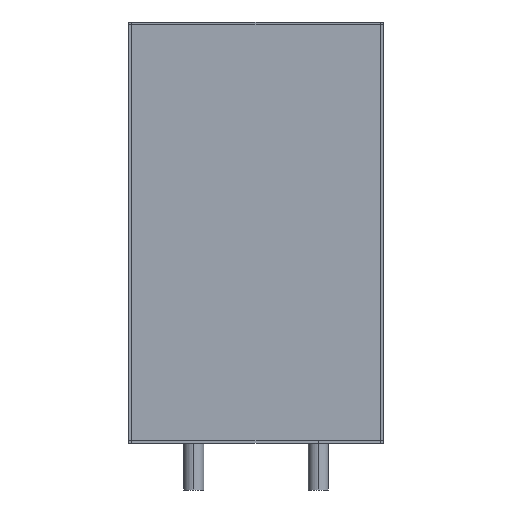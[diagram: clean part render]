
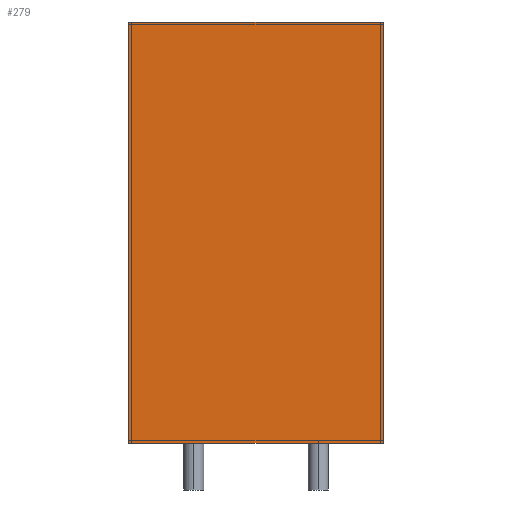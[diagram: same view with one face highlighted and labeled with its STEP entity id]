
A CAD part, front view. The second image highlights one B-rep face of the part: STEP entity #279.
In plain terms, the highlighted planar face has unit normal (0, -1, 0).
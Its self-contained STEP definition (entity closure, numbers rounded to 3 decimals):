
#240 = CARTESIAN_POINT ( 'NONE',  ( -5.2, -1.905, -0.1 ) ) ;
#241 = VERTEX_POINT ( 'NONE', #240 ) ;
#242 = CARTESIAN_POINT ( 'NONE',  ( 5.2, -1.905, -0.1 ) ) ;
#243 = VERTEX_POINT ( 'NONE', #242 ) ;
#244 = CARTESIAN_POINT ( 'NONE',  ( 5.1, -1.905, -0.1 ) ) ;
#245 = DIRECTION ( 'NONE',  ( 1., 0., 0. ) ) ;
#246 = VECTOR ( 'NONE', #245, 1000. ) ;
#247 = LINE ( 'NONE', #244, #246 ) ;
#248 = EDGE_CURVE ( 'NONE', #241, #243, #247, .T. ) ;
#249 = ORIENTED_EDGE ( 'NONE', *, *, #248, .T. ) ;
#250 = CARTESIAN_POINT ( 'NONE',  ( 5.2, -1.905, 17.1 ) ) ;
#251 = VERTEX_POINT ( 'NONE', #250 ) ;
#252 = CARTESIAN_POINT ( 'NONE',  ( 5.2, -1.905, 17.1 ) ) ;
#253 = DIRECTION ( 'NONE',  ( 0., 0., 1. ) ) ;
#254 = VECTOR ( 'NONE', #253, 1000. ) ;
#255 = LINE ( 'NONE', #252, #254 ) ;
#256 = EDGE_CURVE ( 'NONE', #243, #251, #255, .T. ) ;
#257 = ORIENTED_EDGE ( 'NONE', *, *, #256, .T. ) ;
#258 = CARTESIAN_POINT ( 'NONE',  ( -5.2, -1.905, 17.1 ) ) ;
#259 = VERTEX_POINT ( 'NONE', #258 ) ;
#260 = CARTESIAN_POINT ( 'NONE',  ( 5.1, -1.905, 17.1 ) ) ;
#261 = DIRECTION ( 'NONE',  ( -1., 0., 0. ) ) ;
#262 = VECTOR ( 'NONE', #261, 1000. ) ;
#263 = LINE ( 'NONE', #260, #262 ) ;
#264 = EDGE_CURVE ( 'NONE', #251, #259, #263, .T. ) ;
#265 = ORIENTED_EDGE ( 'NONE', *, *, #264, .T. ) ;
#266 = CARTESIAN_POINT ( 'NONE',  ( -5.2, -1.905, 0. ) ) ;
#267 = DIRECTION ( 'NONE',  ( 0., 0., -1. ) ) ;
#268 = VECTOR ( 'NONE', #267, 1000. ) ;
#269 = LINE ( 'NONE', #266, #268 ) ;
#270 = EDGE_CURVE ( 'NONE', #259, #241, #269, .T. ) ;
#271 = ORIENTED_EDGE ( 'NONE', *, *, #270, .T. ) ;
#272 = EDGE_LOOP ( 'NONE', ( #249, #257, #265, #271 ) ) ;
#273 = FACE_OUTER_BOUND ( 'NONE', #272, .T. ) ;
#274 = CARTESIAN_POINT ( 'NONE',  ( 5.1, -1.905, 0. ) ) ;
#275 = DIRECTION ( 'NONE',  ( 0., 1., 0. ) ) ;
#276 = DIRECTION ( 'NONE',  ( -1., 0., 0. ) ) ;
#277 = AXIS2_PLACEMENT_3D ( 'NONE', #274, #275, #276 ) ;
#278 = PLANE ( 'NONE', #277 ) ;
#279 = ADVANCED_FACE ( 'NONE', ( #273 ), #278, .F. ) ;
